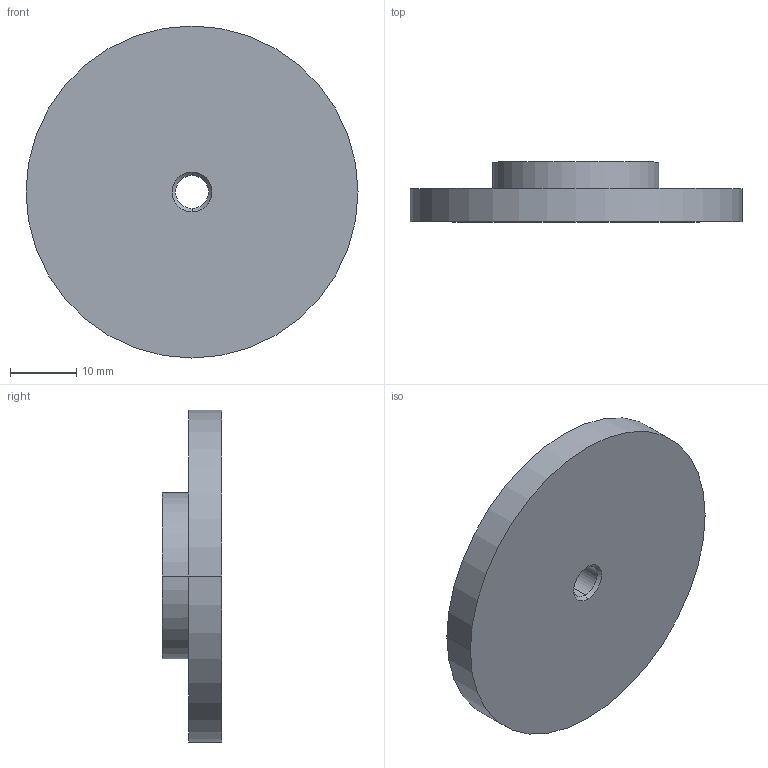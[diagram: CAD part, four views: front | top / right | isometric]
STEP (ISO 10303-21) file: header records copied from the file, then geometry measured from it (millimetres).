
FILE_DESCRIPTION (( 'STEP AP203' ), '1' );
FILE_NAME ('452550.STEP', '2018-10-15T11:43:07', ( '' ), ( '' ), 'SwSTEP 2.0', 'SolidWorks 2015', '' );
FILE_SCHEMA (( 'CONFIG_CONTROL_DESIGN' ));
Length unit declared in the file: millimetre
Products named in the file (1): 452550
Bounding box: 50 x 9 x 50 mm (x, y, z)
Volume: 11600.1 mm3; surface area: 5120.1 mm2
Topology: 1 solids, 1 shells, 13 faces, 26 edges, 16 vertices
Faces by surface type: cylinder 6, cone 4, plane 3
Entity records: 425 total; most frequent: DIRECTION 70, CARTESIAN_POINT 56, ORIENTED_EDGE 52, AXIS2_PLACEMENT_3D 30, EDGE_CURVE 26, EDGE_LOOP 16, CIRCLE 16, VERTEX_POINT 16
